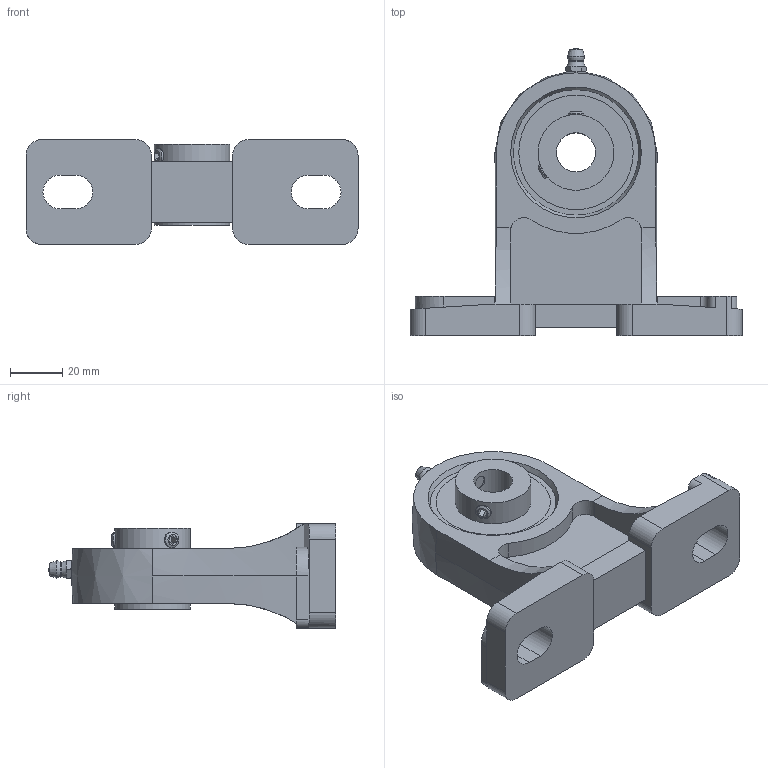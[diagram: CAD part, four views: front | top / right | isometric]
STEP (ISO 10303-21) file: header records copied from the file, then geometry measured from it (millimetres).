
FILE_DESCRIPTION((''),'2;1');
FILE_NAME('\\Ts-tgl068\j-cad-d-base\00.3DCADデータ作成フォルダ\01.ピロー形\UCPH200\UCPH202.stp','2014-04-18T08:29:49',('btec_1106_2'),(''),'Autodesk Inventor 2012','Autodesk Inventor 2012','');
FILE_SCHEMA(('AUTOMOTIVE_DESIGN { 1 0 10303 214 1 1 1 1 }'));
Length unit declared in the file: millimetre
Products named in the file (4): UCPH200; PH [番手=204 ul]; シリーズUC [番手=202 ul]; GU1
Assembly tree (3 placements, depth 2):
  UCPH200
    PH [番手=204 ul]
    シリーズUC [番手=202 ul]
    GU1
Bounding box: 127 x 109.79 x 40 mm (x, y, z)
Volume: 134325.7 mm3; surface area: 38654.2 mm2
Topology: 3 solids, 3 shells, 145 faces, 360 edges, 231 vertices
Faces by surface type: plane 76, cylinder 41, cone 17, bspline 5, sphere 4, torus 2
Full cylindrical faces by diameter (mm): 5.359 x1, 6 x2, 6.35 x1, 15 x1, 29 x2
Entity records: 4560 total; most frequent: CARTESIAN_POINT 1114, DIRECTION 684, ORIENTED_EDGE 666, EDGE_CURVE 333, AXIS2_PLACEMENT_3D 252, VERTEX_POINT 223, EDGE_LOOP 184, VECTOR 180
